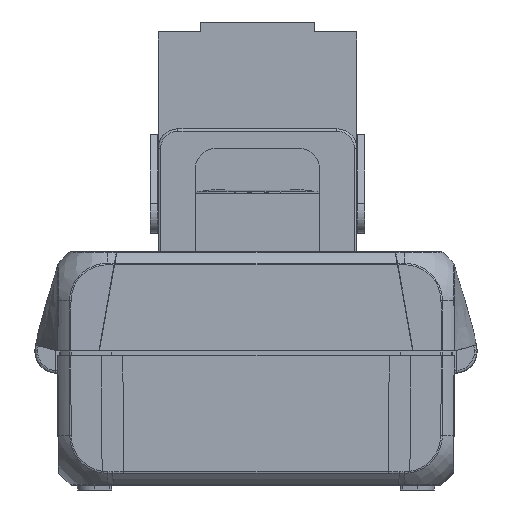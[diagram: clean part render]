
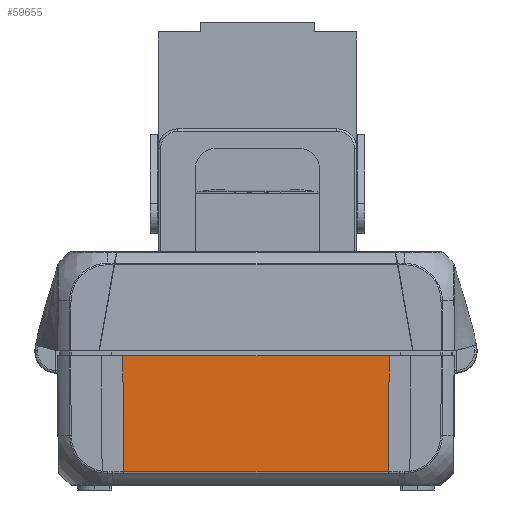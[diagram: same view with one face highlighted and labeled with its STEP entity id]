
A CAD part, front view. The second image highlights one B-rep face of the part: STEP entity #59655.
In plain terms, the highlighted planar face has unit normal (0, -1, -0.009).
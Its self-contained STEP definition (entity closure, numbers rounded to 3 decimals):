
#3960=PLANE('',#63609);
#5814=FACE_OUTER_BOUND('',#9243,.T.);
#9243=EDGE_LOOP('',(#40518,#40519,#40520,#40521));
#12778=LINE('',#88885,#17826);
#12824=LINE('',#103636,#17872);
#12906=LINE('',#105000,#17954);
#12907=LINE('',#105001,#17955);
#17826=VECTOR('',#70173,53.636);
#17872=VECTOR('',#70467,53.229);
#17954=VECTOR('',#70769,23.328);
#17955=VECTOR('',#70770,23.328);
#24227=VERTEX_POINT('',#88882);
#24228=VERTEX_POINT('',#88884);
#24299=VERTEX_POINT('',#103630);
#24300=VERTEX_POINT('',#103634);
#30158=EDGE_CURVE('',#24228,#24227,#12778,.T.);
#30310=EDGE_CURVE('',#24300,#24299,#12824,.T.);
#30425=EDGE_CURVE('',#24228,#24300,#12906,.T.);
#30426=EDGE_CURVE('',#24299,#24227,#12907,.T.);
#40518=ORIENTED_EDGE('',*,*,#30310,.F.);
#40519=ORIENTED_EDGE('',*,*,#30425,.F.);
#40520=ORIENTED_EDGE('',*,*,#30158,.T.);
#40521=ORIENTED_EDGE('',*,*,#30426,.F.);
#59655=ADVANCED_FACE('',(#5814),#3960,.T.);
#63609=AXIS2_PLACEMENT_3D('',#104999,#70767,#70768);
#70173=DIRECTION('',(-1.,0.,0.));
#70467=DIRECTION('',(-1.,0.,0.));
#70767=DIRECTION('center_axis',(0.,-1.,
-0.009));
#70768=DIRECTION('ref_axis',(0.,0.009,-1.));
#70769=DIRECTION('',(-0.009,0.009,-1.));
#70770=DIRECTION('',(-0.009,-0.009,1.));
#88882=CARTESIAN_POINT('',(-17.111,-14.975,-22.499));
#88884=CARTESIAN_POINT('',(36.525,-14.975,-22.499));
#88885=CARTESIAN_POINT('',(36.525,-14.975,-22.499));
#103630=CARTESIAN_POINT('',(-16.908,-14.772,-45.825));
#103634=CARTESIAN_POINT('',(36.322,-14.772,-45.825));
#103636=CARTESIAN_POINT('',(36.322,-14.772,-45.825));
#104999=CARTESIAN_POINT('Origin',(49.707,-14.748,-48.498));
#105000=CARTESIAN_POINT('',(36.525,-14.975,-22.499));
#105001=CARTESIAN_POINT('',(-16.908,-14.772,-45.825));
